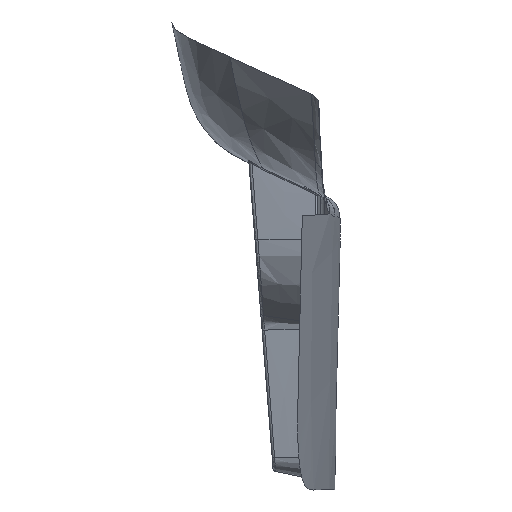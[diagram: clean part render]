
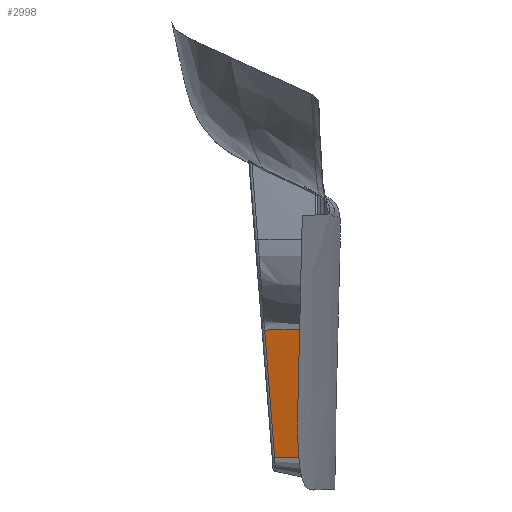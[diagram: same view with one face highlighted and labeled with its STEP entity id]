
A CAD part, front view. The second image highlights one B-rep face of the part: STEP entity #2998.
In plain terms, the highlighted free-form (B-spline) face has degree [5, 3] with [9, 4] control points.
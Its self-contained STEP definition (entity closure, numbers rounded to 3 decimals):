
#2491=CARTESIAN_POINT('Vertex',(3378.44,-12.254,686.43)) ;
#2549=CARTESIAN_POINT('Vertex',(3379.939,-11.826,667.263)) ;
#2553=CARTESIAN_POINT('Control Point',(3378.44,-12.254,686.43)) ;
#2554=CARTESIAN_POINT('Control Point',(3378.937,-12.112,680.091)) ;
#2555=CARTESIAN_POINT('Control Point',(3379.445,-11.967,673.604)) ;
#2556=CARTESIAN_POINT('Control Point',(3379.939,-11.826,667.263)) ;
#2911=CARTESIAN_POINT('Control Point',(3378.44,-12.254,686.43)) ;
#2912=CARTESIAN_POINT('Control Point',(3380.967,-12.906,686.462)) ;
#2913=CARTESIAN_POINT('Control Point',(3383.496,-13.556,686.494)) ;
#2914=CARTESIAN_POINT('Control Point',(3386.024,-14.205,686.527)) ;
#2915=CARTESIAN_POINT('Control Point',(3378.589,-12.211,684.528)) ;
#2916=CARTESIAN_POINT('Control Point',(3381.049,-12.851,684.552)) ;
#2917=CARTESIAN_POINT('Control Point',(3383.513,-13.487,684.566)) ;
#2918=CARTESIAN_POINT('Control Point',(3385.976,-14.124,684.591)) ;
#2919=CARTESIAN_POINT('Control Point',(3378.739,-12.168,682.615)) ;
#2920=CARTESIAN_POINT('Control Point',(3381.132,-12.797,682.633)) ;
#2921=CARTESIAN_POINT('Control Point',(3383.53,-13.417,682.637)) ;
#2922=CARTESIAN_POINT('Control Point',(3385.928,-14.043,682.655)) ;
#2923=CARTESIAN_POINT('Control Point',(3378.889,-12.125,680.695)) ;
#2924=CARTESIAN_POINT('Control Point',(3381.214,-12.741,680.707)) ;
#2925=CARTESIAN_POINT('Control Point',(3383.547,-13.348,680.705)) ;
#2926=CARTESIAN_POINT('Control Point',(3385.88,-13.962,680.717)) ;
#2927=CARTESIAN_POINT('Control Point',(3379.191,-12.039,676.847)) ;
#2928=CARTESIAN_POINT('Control Point',(3381.379,-12.63,676.85)) ;
#2929=CARTESIAN_POINT('Control Point',(3383.58,-13.211,676.847)) ;
#2930=CARTESIAN_POINT('Control Point',(3385.785,-13.801,676.85)) ;
#2931=CARTESIAN_POINT('Control Point',(3379.492,-11.953,672.999)) ;
#2932=CARTESIAN_POINT('Control Point',(3381.544,-12.518,672.994)) ;
#2933=CARTESIAN_POINT('Control Point',(3383.613,-13.075,672.981)) ;
#2934=CARTESIAN_POINT('Control Point',(3385.688,-13.64,672.976)) ;
#2935=CARTESIAN_POINT('Control Point',(3379.642,-11.91,671.078)) ;
#2936=CARTESIAN_POINT('Control Point',(3381.626,-12.462,671.069)) ;
#2937=CARTESIAN_POINT('Control Point',(3383.629,-13.008,671.058)) ;
#2938=CARTESIAN_POINT('Control Point',(3385.641,-13.56,671.048)) ;
#2939=CARTESIAN_POINT('Control Point',(3379.791,-11.868,669.165)) ;
#2940=CARTESIAN_POINT('Control Point',(3381.708,-12.406,669.151)) ;
#2941=CARTESIAN_POINT('Control Point',(3383.646,-12.942,669.147)) ;
#2942=CARTESIAN_POINT('Control Point',(3385.593,-13.481,669.133)) ;
#2943=CARTESIAN_POINT('Control Point',(3379.939,-11.826,667.263)) ;
#2944=CARTESIAN_POINT('Control Point',(3381.79,-12.349,667.244)) ;
#2945=CARTESIAN_POINT('Control Point',(3383.663,-12.876,667.226)) ;
#2946=CARTESIAN_POINT('Control Point',(3385.545,-13.402,667.208)) ;
#2948=CARTESIAN_POINT('Control Point',(3379.939,-11.826,667.263)) ;
#2949=CARTESIAN_POINT('Control Point',(3380.743,-12.053,667.255)) ;
#2950=CARTESIAN_POINT('Control Point',(3381.551,-12.281,667.247)) ;
#2951=CARTESIAN_POINT('Control Point',(3382.362,-12.509,667.239)) ;
#2952=CARTESIAN_POINT('Vertex',(3382.362,-12.509,667.239)) ;
#2956=CARTESIAN_POINT('Control Point',(3382.362,-12.509,667.239)) ;
#2957=CARTESIAN_POINT('Control Point',(3383.418,-12.806,667.229)) ;
#2958=CARTESIAN_POINT('Control Point',(3384.48,-13.104,667.218)) ;
#2959=CARTESIAN_POINT('Control Point',(3385.545,-13.402,667.208)) ;
#2960=CARTESIAN_POINT('Vertex',(3385.545,-13.402,667.208)) ;
#2964=CARTESIAN_POINT('Control Point',(3386.024,-14.205,686.527)) ;
#2965=CARTESIAN_POINT('Control Point',(3385.976,-14.124,684.591)) ;
#2966=CARTESIAN_POINT('Control Point',(3385.928,-14.043,682.655)) ;
#2967=CARTESIAN_POINT('Control Point',(3385.88,-13.962,680.717)) ;
#2968=CARTESIAN_POINT('Control Point',(3385.785,-13.801,676.85)) ;
#2969=CARTESIAN_POINT('Control Point',(3385.688,-13.64,672.976)) ;
#2970=CARTESIAN_POINT('Control Point',(3385.641,-13.56,671.048)) ;
#2971=CARTESIAN_POINT('Control Point',(3385.593,-13.481,669.133)) ;
#2972=CARTESIAN_POINT('Control Point',(3385.545,-13.402,667.208)) ;
#2973=CARTESIAN_POINT('Vertex',(3386.024,-14.205,686.527)) ;
#2977=CARTESIAN_POINT('Control Point',(3383.654,-13.596,686.496)) ;
#2978=CARTESIAN_POINT('Control Point',(3384.444,-13.799,686.506)) ;
#2979=CARTESIAN_POINT('Control Point',(3385.234,-14.002,686.516)) ;
#2980=CARTESIAN_POINT('Control Point',(3386.024,-14.205,686.527)) ;
#2981=CARTESIAN_POINT('Vertex',(3383.654,-13.596,686.496)) ;
#2985=CARTESIAN_POINT('Control Point',(3378.44,-12.254,686.43)) ;
#2986=CARTESIAN_POINT('Control Point',(3380.178,-12.702,686.452)) ;
#2987=CARTESIAN_POINT('Control Point',(3381.916,-13.149,686.474)) ;
#2988=CARTESIAN_POINT('Control Point',(3383.654,-13.596,686.496)) ;
#2557=EDGE_CURVE('',#2492,#2550,#2552,.T.) ;
#2954=EDGE_CURVE('',#2953,#2550,#2947,.F.) ;
#2962=EDGE_CURVE('',#2961,#2953,#2955,.F.) ;
#2975=EDGE_CURVE('',#2961,#2974,#2963,.F.) ;
#2983=EDGE_CURVE('',#2974,#2982,#2976,.F.) ;
#2989=EDGE_CURVE('',#2982,#2492,#2984,.F.) ;
#2991=ORIENTED_EDGE('',*,*,#2557,.T.) ;
#2992=ORIENTED_EDGE('',*,*,#2954,.F.) ;
#2993=ORIENTED_EDGE('',*,*,#2962,.F.) ;
#2994=ORIENTED_EDGE('',*,*,#2975,.T.) ;
#2995=ORIENTED_EDGE('',*,*,#2983,.T.) ;
#2996=ORIENTED_EDGE('',*,*,#2989,.T.) ;
#2990=EDGE_LOOP('',(#2991,#2992,#2993,#2994,#2995,#2996)) ;
#2492=VERTEX_POINT('',#2491) ;
#2550=VERTEX_POINT('',#2549) ;
#2953=VERTEX_POINT('',#2952) ;
#2961=VERTEX_POINT('',#2960) ;
#2974=VERTEX_POINT('',#2973) ;
#2982=VERTEX_POINT('',#2981) ;
#2998=ADVANCED_FACE('Surface.1',(#2997),#2910,.T.) ;
#2552=B_SPLINE_CURVE_WITH_KNOTS('',3,(#2553,#2554,#2555,#2556),.UNSPECIFIED.,.F.,.U.,(4,4),(0.,19.225),.UNSPECIFIED.) ;
#2947=B_SPLINE_CURVE_WITH_KNOTS('',3,(#2948,#2949,#2950,#2951),.UNSPECIFIED.,.F.,.U.,(4,4),(0.,2.964),.UNSPECIFIED.) ;
#2955=B_SPLINE_CURVE_WITH_KNOTS('',3,(#2956,#2957,#2958,#2959),.UNSPECIFIED.,.F.,.U.,(4,4),(2.964,6.826),.UNSPECIFIED.) ;
#2963=B_SPLINE_CURVE_WITH_KNOTS('',5,(#2964,#2965,#2966,#2967,#2968,#2969,#2970,#2971,#2972),.UNSPECIFIED.,.F.,.U.,(6,3,6),(0.,9.637,19.274),.UNSPECIFIED.) ;
#2976=B_SPLINE_CURVE_WITH_KNOTS('',3,(#2977,#2978,#2979,#2980),.UNSPECIFIED.,.F.,.U.,(4,4),(4.693,6.826),.UNSPECIFIED.) ;
#2984=B_SPLINE_CURVE_WITH_KNOTS('',3,(#2985,#2986,#2987,#2988),.UNSPECIFIED.,.F.,.U.,(4,4),(0.,4.693),.UNSPECIFIED.) ;
#2910=B_SPLINE_SURFACE_WITH_KNOTS('',5,3,((#2911,#2912,#2913,#2914),(#2915,#2916,#2917,#2918),(#2919,#2920,#2921,#2922),(#2923,#2924,#2925,#2926),(#2927,#2928,#2929,#2930),(#2931,#2932,#2933,#2934),(#2935,#2936,#2937,#2938),(#2939,#2940,#2941,#2942),(#2943,#2944,#2945,#2946)),.UNSPECIFIED.,.F.,.F.,.U.,(6,3,6),(4,4),(0.,9.637,19.274),(0.,6.826),.UNSPECIFIED.) ;
#2997=FACE_OUTER_BOUND('',#2990,.T.) ;
